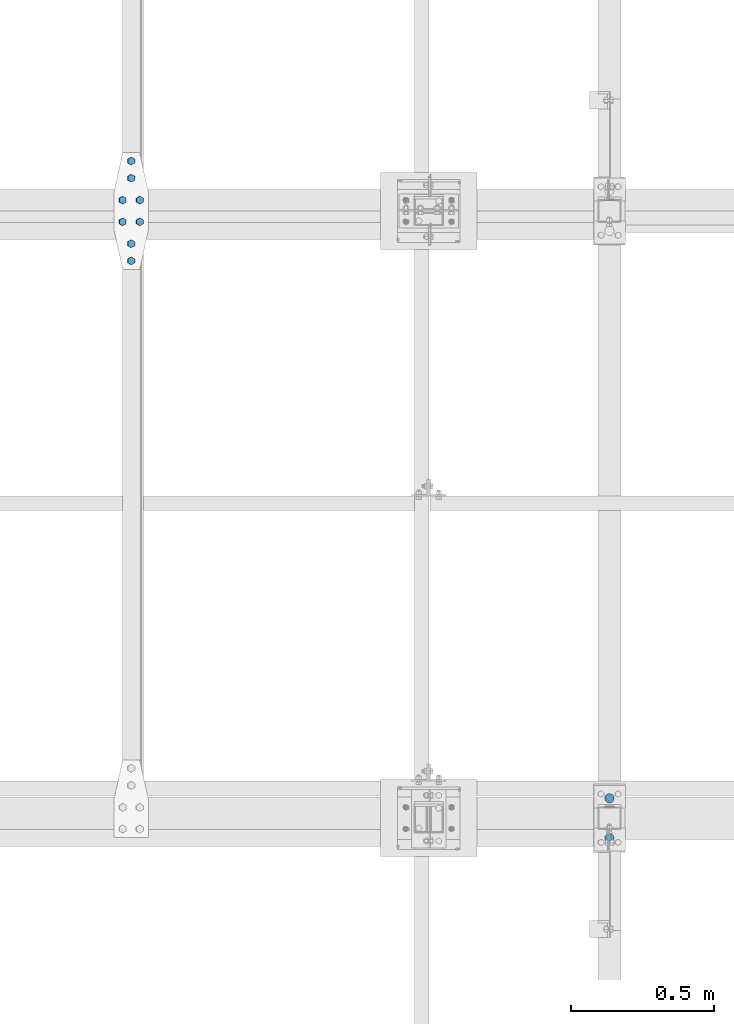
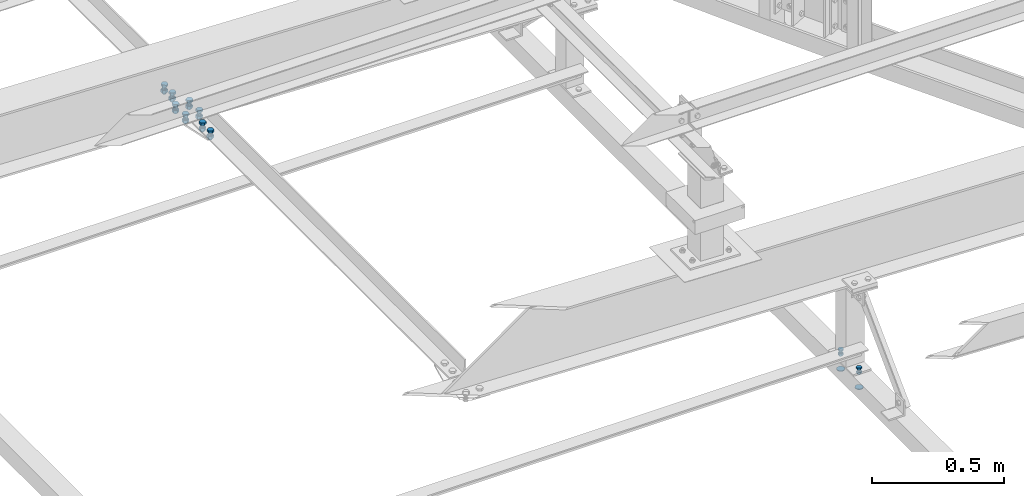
# One storey, part 9 of 3134: 5 mechanical fasteners, 3 elements without a shape of their own.
"""IFC2X3 building model written with IfcOpenShell, lengths in millimetres."""

from ifc_helpers import new_model, si_unit, frame, origin_with_axes, place, context, subcontext, project, spatial, faceted_brep, source, transform, mapped, material, type_object, element, aggregate, save


model = new_model("IFC2X3")

# Units and contexts
model_context = context("Model", 3, precision=1e-05, world=origin_with_axes())
body_context = subcontext(model_context, "Body", "Model", "MODEL_VIEW")
ifc_project = project(units=[si_unit("LENGTHUNIT", "METRE", prefix="MILLI"), si_unit("AREAUNIT", "SQUARE_METRE"), si_unit("VOLUMEUNIT", "CUBIC_METRE"), si_unit("MASSUNIT", "GRAM", prefix="KILO"), si_unit("TIMEUNIT", "SECOND"), si_unit("PLANEANGLEUNIT", "RADIAN"), si_unit("SOLIDANGLEUNIT", "STERADIAN"), si_unit("THERMODYNAMICTEMPERATUREUNIT", "DEGREE_CELSIUS"), si_unit("LUMINOUSINTENSITYUNIT", "LUMEN")], contexts=[model_context])

# Site, building, storey
site_placement = place(None, origin_with_axes())
site = spatial("IfcSite", under=ifc_project, at=site_placement, CompositionType="ELEMENT")
building_placement = place(site_placement, origin_with_axes())
building = spatial("IfcBuilding", under=site, at=building_placement, Name="Undefined", CompositionType="ELEMENT")
storey_placement = place(building_placement, origin_with_axes())
storey = spatial("IfcBuildingStorey", under=building, at=storey_placement, Name="Undefined", CompositionType="ELEMENT", Elevation=0.0)

# Assembly, mechanical fasteners
assembly_1_placement = place(storey_placement, origin_with_axes())
assembly_1 = element("IfcElementAssembly", 1, at=assembly_1_placement, inside=storey, AssemblyPlace="NOTDEFINED", PredefinedType="RIGID_FRAME")
ifc_material = material(Name="8.8")
mechanical_fastener_type = type_object("IfcMechanicalFastenerType", Name="Bolt assembly")
shared_shape_1 = source(origin_with_axes(), body_context, "Body", "Brep", [
    faceted_brep([(16.5, -3.0, 0.0), (14.289419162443, -3.0, 8.25000000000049), (8.24999999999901, -3.0, 14.2894191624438), (-1.70995436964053e-12, -3.0, 16.5), (-8.25000000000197, -3.0, 14.2894191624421), (-14.2894191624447, -3.0, 8.24999999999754), (-16.5, -3.0, -3.41990873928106e-12), (-14.2894191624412, -3.0, -8.25000000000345), (-8.24999999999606, -3.0, -14.2894191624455), (5.11154442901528e-12, -3.0, -16.5), (8.25000000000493, -3.0, -14.2894191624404), (14.2894191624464, -3.0, -8.24999999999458), (14.2894191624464, 0.1, -8.24999999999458), (8.25000000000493, 0.1, -14.2894191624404), (5.11154442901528e-12, 0.1, -16.5), (-8.24999999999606, 0.1, -14.2894191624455), (-14.2894191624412, 0.1, -8.25000000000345), (-16.5, 0.1, -3.41990873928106e-12), (-14.2894191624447, 0.1, 8.24999999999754), (-8.25000000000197, 0.1, 14.2894191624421), (-1.70995436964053e-12, 0.1, 16.5), (8.24999999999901, 0.1, 14.2894191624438), (14.289419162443, 0.1, 8.25000000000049), (16.5, 0.1, 0.0)], [[[0, 1, 2, 3, 4, 5, 6, 7, 8, 9, 10, 11]], [[12, 13, 14, 15, 16, 17, 18, 19, 20, 21, 22, 23]], [[0, 23, 22, 1]], [[1, 22, 21, 2]], [[2, 21, 20, 3]], [[3, 20, 19, 4]], [[4, 19, 18, 5]], [[5, 18, 17, 6]], [[6, 17, 16, 7]], [[7, 16, 15, 8]], [[8, 15, 14, 9]], [[9, 14, 13, 10]], [[10, 13, 12, 11]], [[11, 12, 23, 0]]]),
])
mechanical_fastener_1_placement = place(assembly_1_placement, frame((6325.0, 11000.0, 3040.0), z_axis=(1.0, 0.0, 0.0), x_axis=(0.0, -1.0, 0.0)))
mechanical_fastener_1 = element("IfcMechanicalFastener", 2, at=mechanical_fastener_1_placement, type_object=mechanical_fastener_type, material=ifc_material, Name="Bolt assembly", NominalDiameter=30.0, NominalLength=3.0, context=body_context, shape_type="MappedRepresentation", body=[
    mapped(shared_shape_1, transform((0.0, 0.0, 0.0))),
    mapped(shared_shape_1, transform((140.0, 0.0, 0.0))),
])
shared_shape_2 = source(origin_with_axes(), body_context, "Body", "Brep", [
    faceted_brep([(10.9696551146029, -16.0, 0.0), (5.48482755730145, -16.0, 9.5), (-5.48482755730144, -16.0, 9.5), (-10.9696551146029, -16.0, 1.34339530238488e-15), (-5.48482755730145, -16.0, -9.5), (5.48482755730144, -16.0, -9.50000000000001), (5.48482755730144, -8.0, -9.50000000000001), (-5.48482755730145, -8.0, -9.5), (-10.9696551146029, -8.0, 1.34339530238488e-15), (-5.48482755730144, -8.0, 9.5), (5.48482755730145, -8.0, 9.5), (10.9696551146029, -8.0, 0.0), (6.0, -8.0, 0.0), (5.19615242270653, -8.0, 3.00000000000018), (2.99999999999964, -8.0, 5.19615242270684), (-6.21801588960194e-13, -8.0, 6.0), (-3.00000000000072, -8.0, 5.19615242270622), (-5.19615242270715, -8.0, 2.9999999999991), (-6.0, -8.0, -1.24360317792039e-12), (-5.19615242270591, -8.0, -3.00000000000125), (-2.99999999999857, -8.0, -5.19615242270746), (1.85874342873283e-12, -8.0, -6.0), (3.00000000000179, -8.0, -5.1961524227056), (5.19615242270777, -8.0, -2.99999999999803), (5.19615242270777, 17.0, -2.99999999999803), (3.00000000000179, 17.0, -5.1961524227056), (1.85874342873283e-12, 17.0, -6.0), (-2.99999999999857, 17.0, -5.19615242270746), (-5.19615242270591, 17.0, -3.00000000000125), (-6.0, 17.0, -1.24360317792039e-12), (-5.19615242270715, 17.0, 2.9999999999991), (-3.00000000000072, 17.0, 5.19615242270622), (-6.21801588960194e-13, 17.0, 6.0), (2.99999999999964, 17.0, 5.19615242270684), (5.19615242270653, 17.0, 3.00000000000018), (6.0, 17.0, 0.0), (10.9696551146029, 3.00000000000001, 0.0), (5.48482755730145, 3.00000000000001, 9.5), (-5.48482755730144, 3.00000000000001, 9.5), (-10.9696551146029, 3.00000000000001, 1.34339530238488e-15), (-5.48482755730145, 3.00000000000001, -9.5), (5.48482755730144, 3.00000000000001, -9.50000000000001), (5.48482755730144, 13.0, -9.50000000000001), (-5.48482755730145, 13.0, -9.5), (-10.9696551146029, 13.0, 1.34339530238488e-15), (-5.48482755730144, 13.0, 9.5), (5.48482755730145, 13.0, 9.5), (10.9696551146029, 13.0, 0.0)], [[[0, 1, 2, 3, 4, 5]], [[6, 7, 8, 9, 10, 11]], [[0, 11, 10, 1]], [[1, 10, 9, 2]], [[2, 9, 8, 3]], [[3, 8, 7, 4]], [[4, 7, 6, 5]], [[5, 6, 11, 0]], [[12, 13, 14, 15, 16, 17, 18, 19, 20, 21, 22, 23]], [[24, 25, 26, 27, 28, 29, 30, 31, 32, 33, 34, 35]], [[12, 35, 34, 13]], [[13, 34, 33, 14]], [[14, 33, 32, 15]], [[15, 32, 31, 16]], [[16, 31, 30, 17]], [[17, 30, 29, 18]], [[18, 29, 28, 19]], [[19, 28, 27, 20]], [[20, 27, 26, 21]], [[21, 26, 25, 22]], [[22, 25, 24, 23]], [[23, 24, 35, 12]], [[36, 37, 38, 39, 40, 41]], [[42, 43, 44, 45, 46, 47]], [[36, 47, 46, 37]], [[37, 46, 45, 38]], [[38, 45, 44, 39]], [[39, 44, 43, 40]], [[40, 43, 42, 41]], [[41, 42, 47, 36]]]),
    faceted_brep([(7.0, -7.9, 0.0), (6.06217782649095, -7.9, 3.50000000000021), (3.49999999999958, -7.9, 6.06217782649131), (-7.25435187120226e-13, -7.9, 7.0), (-3.50000000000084, -7.9, 6.06217782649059), (-6.06217782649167, -7.9, 3.49999999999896), (-7.0, -7.9, -1.45087037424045e-12), (-6.06217782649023, -7.9, -3.50000000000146), (-3.49999999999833, -7.9, -6.06217782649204), (2.1685340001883e-12, -7.9, -7.0), (3.50000000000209, -7.9, -6.06217782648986), (6.0621778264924, -7.9, -3.4999999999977), (6.0621778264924, 0.0999999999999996, -3.4999999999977), (3.50000000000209, 0.0999999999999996, -6.06217782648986), (2.1685340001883e-12, 0.0999999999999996, -7.0), (-3.49999999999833, 0.0999999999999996, -6.06217782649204), (-6.06217782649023, 0.0999999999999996, -3.50000000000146), (-7.0, 0.0999999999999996, -1.45087037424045e-12), (-6.06217782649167, 0.0999999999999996, 3.49999999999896), (-3.50000000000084, 0.0999999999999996, 6.06217782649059), (-7.25435187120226e-13, 0.0999999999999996, 7.0), (3.49999999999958, 0.0999999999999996, 6.06217782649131), (6.06217782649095, 0.0999999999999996, 3.50000000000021), (7.0, 0.0999999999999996, 0.0), (7.0, -0.1, 0.0), (6.06217782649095, -0.1, 3.50000000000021), (3.49999999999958, -0.1, 6.06217782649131), (-7.25435187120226e-13, -0.1, 7.0), (-3.50000000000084, -0.1, 6.06217782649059), (-6.06217782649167, -0.1, 3.49999999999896), (-7.0, -0.1, -1.45087037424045e-12), (-6.06217782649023, -0.1, -3.50000000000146), (-3.49999999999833, -0.1, -6.06217782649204), (2.1685340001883e-12, -0.1, -7.0), (3.50000000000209, -0.1, -6.06217782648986), (6.0621778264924, -0.1, -3.4999999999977), (6.0621778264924, 3.0, -3.4999999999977), (3.50000000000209, 3.0, -6.06217782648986), (2.1685340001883e-12, 3.0, -7.0), (-3.49999999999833, 3.0, -6.06217782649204), (-6.06217782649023, 3.0, -3.50000000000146), (-7.0, 3.0, -1.45087037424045e-12), (-6.06217782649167, 3.0, 3.49999999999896), (-3.50000000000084, 3.0, 6.06217782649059), (-7.25435187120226e-13, 3.0, 7.0), (3.49999999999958, 3.0, 6.06217782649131), (6.06217782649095, 3.0, 3.50000000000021), (7.0, 3.0, 0.0)], [[[0, 1, 2, 3, 4, 5, 6, 7, 8, 9, 10, 11]], [[12, 13, 14, 15, 16, 17, 18, 19, 20, 21, 22, 23]], [[0, 23, 22, 1]], [[1, 22, 21, 2]], [[2, 21, 20, 3]], [[3, 20, 19, 4]], [[4, 19, 18, 5]], [[5, 18, 17, 6]], [[6, 17, 16, 7]], [[7, 16, 15, 8]], [[8, 15, 14, 9]], [[9, 14, 13, 10]], [[10, 13, 12, 11]], [[11, 12, 23, 0]], [[24, 25, 26, 27, 28, 29, 30, 31, 32, 33, 34, 35]], [[36, 37, 38, 39, 40, 41, 42, 43, 44, 45, 46, 47]], [[24, 47, 46, 25]], [[25, 46, 45, 26]], [[26, 45, 44, 27]], [[27, 44, 43, 28]], [[28, 43, 42, 29]], [[29, 42, 41, 30]], [[30, 41, 40, 31]], [[31, 40, 39, 32]], [[32, 39, 38, 33]], [[33, 38, 37, 34]], [[34, 37, 36, 35]], [[35, 36, 47, 24]]]),
])
mechanical_fastener_2_placement = place(assembly_1_placement, frame((6325.0, 11000.0, 3120.0), z_axis=(1.0, 0.0, 0.0), x_axis=(0.0, -1.0, 0.0)))
mechanical_fastener_2 = element("IfcMechanicalFastener", 3, at=mechanical_fastener_2_placement, type_object=mechanical_fastener_type, material=ifc_material, Name="Bolt assembly", NominalDiameter=12.0, NominalLength=25.0, context=body_context, shape_type="MappedRepresentation", body=[
    mapped(shared_shape_2, transform((0.0, 0.0, 0.0))),
    mapped(shared_shape_2, transform((140.0, 0.0, 0.0))),
])
aggregate(assembly_1, [mechanical_fastener_2, mechanical_fastener_1])

# Assembly, mechanical fastener
assembly_2_placement = place(storey_placement, origin_with_axes())
assembly_2 = element("IfcElementAssembly", 4, at=assembly_2_placement, inside=storey, Name="PL8", AssemblyPlace="NOTDEFINED", PredefinedType="RIGID_FRAME")
shared_shape_3 = source(origin_with_axes(), body_context, "Body", "Brep", [
    faceted_brep([(13.856406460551, -21.0000017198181, 0.0), (6.92820323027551, -21.0000017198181, 12.0), (-6.92820323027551, -21.0000017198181, 12.0), (-13.856406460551, -21.0000017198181, 1.69692038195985e-15), (-6.92820323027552, -21.0000017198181, -12.0), (6.9282032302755, -21.0000017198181, -12.0), (6.9282032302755, -11.0000017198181, -12.0), (-6.92820323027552, -11.0000017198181, -12.0), (-13.856406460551, -11.0000017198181, 1.69692038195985e-15), (-6.92820323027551, -11.0000017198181, 12.0), (6.92820323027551, -11.0000017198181, 12.0), (13.856406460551, -11.0000017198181, 0.0), (8.0, -11.0000017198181, 0.0), (6.92820323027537, -11.0000017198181, 4.00000000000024), (3.99999999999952, -11.0000017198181, 6.92820323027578), (-8.29068785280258e-13, -11.0000017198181, 8.0), (-4.00000000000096, -11.0000017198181, 6.92820323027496), (-6.9282032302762, -11.0000017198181, 3.99999999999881), (-8.0, -11.0000017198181, -1.65813757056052e-12), (-6.92820323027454, -11.0000017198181, -4.00000000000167), (-3.99999999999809, -11.0000017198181, -6.92820323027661), (2.47832457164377e-12, -11.0000017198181, -8.0), (4.00000000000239, -11.0000017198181, -6.92820323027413), (6.92820323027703, -11.0000017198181, -3.99999999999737), (6.92820323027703, 23.9999999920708, -3.99999999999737), (4.00000000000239, 23.9999999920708, -6.92820323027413), (2.47832457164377e-12, 23.9999999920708, -8.0), (-3.99999999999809, 23.9999999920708, -6.92820323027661), (-6.92820323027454, 23.9999999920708, -4.00000000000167), (-8.0, 23.9999999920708, -1.65813757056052e-12), (-6.9282032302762, 23.9999999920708, 3.99999999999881), (-4.00000000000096, 23.9999999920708, 6.92820323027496), (-8.29068785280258e-13, 23.9999999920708, 8.0), (3.99999999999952, 23.9999999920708, 6.92820323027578), (6.92820323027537, 23.9999999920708, 4.00000000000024), (8.0, 23.9999999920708, 0.0), (13.856406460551, 3.99999999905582, 0.0), (6.92820323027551, 3.99999999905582, 12.0), (-6.92820323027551, 3.99999999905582, 12.0), (-13.856406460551, 3.99999999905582, 1.69692038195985e-15), (-6.92820323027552, 3.99999999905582, -12.0), (6.9282032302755, 3.99999999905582, -12.0), (6.9282032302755, 16.9999999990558, -12.0), (-6.92820323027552, 16.9999999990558, -12.0), (-13.856406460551, 16.9999999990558, 1.69692038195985e-15), (-6.92820323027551, 16.9999999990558, 12.0), (6.92820323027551, 16.9999999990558, 12.0), (13.856406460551, 16.9999999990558, 0.0)], [[[0, 1, 2, 3, 4, 5]], [[6, 7, 8, 9, 10, 11]], [[0, 11, 10, 1]], [[1, 10, 9, 2]], [[2, 9, 8, 3]], [[3, 8, 7, 4]], [[4, 7, 6, 5]], [[5, 6, 11, 0]], [[12, 13, 14, 15, 16, 17, 18, 19, 20, 21, 22, 23]], [[24, 25, 26, 27, 28, 29, 30, 31, 32, 33, 34, 35]], [[12, 35, 34, 13]], [[13, 34, 33, 14]], [[14, 33, 32, 15]], [[15, 32, 31, 16]], [[16, 31, 30, 17]], [[17, 30, 29, 18]], [[18, 29, 28, 19]], [[19, 28, 27, 20]], [[20, 27, 26, 21]], [[21, 26, 25, 22]], [[22, 25, 24, 23]], [[23, 24, 35, 12]], [[36, 37, 38, 39, 40, 41]], [[42, 43, 44, 45, 46, 47]], [[36, 47, 46, 37]], [[37, 46, 45, 38]], [[38, 45, 44, 39]], [[39, 44, 43, 40]], [[40, 43, 42, 41]], [[41, 42, 47, 36]]]),
    faceted_brep([(9.0, -10.9000017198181, 0.0), (7.79422863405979, -10.9000017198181, 4.50000000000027), (4.49999999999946, -10.9000017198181, 7.79422863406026), (-9.3270238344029e-13, -10.9000017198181, 9.0), (-4.50000000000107, -10.9000017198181, 7.79422863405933), (-7.79422863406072, -10.9000017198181, 4.49999999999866), (-9.0, -10.9000017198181, -1.86540476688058e-12), (-7.79422863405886, -10.9000017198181, -4.50000000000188), (-4.49999999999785, -10.9000017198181, -7.79422863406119), (2.78811514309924e-12, -10.9000017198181, -9.0), (4.50000000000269, -10.9000017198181, -7.7942286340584), (7.79422863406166, -10.9000017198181, -4.49999999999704), (7.79422863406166, -3.9, -4.49999999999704), (4.50000000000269, -3.9, -7.7942286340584), (2.78811514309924e-12, -3.9, -9.0), (-4.49999999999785, -3.9, -7.79422863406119), (-7.79422863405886, -3.9, -4.50000000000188), (-9.0, -3.9, -1.86540476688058e-12), (-7.79422863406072, -3.9, 4.49999999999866), (-4.50000000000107, -3.9, 7.79422863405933), (-9.3270238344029e-13, -3.9, 9.0), (4.49999999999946, -3.9, 7.79422863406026), (7.79422863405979, -3.9, 4.50000000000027), (9.0, -3.9, 0.0), (9.0, -4.10000000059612, 0.0), (7.79422863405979, -4.10000000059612, 4.50000000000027), (4.49999999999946, -4.10000000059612, 7.79422863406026), (-9.3270238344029e-13, -4.10000000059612, 9.0), (-4.50000000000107, -4.10000000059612, 7.79422863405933), (-7.79422863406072, -4.10000000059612, 4.49999999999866), (-9.0, -4.10000000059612, -1.86540476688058e-12), (-7.79422863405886, -4.10000000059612, -4.50000000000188), (-4.49999999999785, -4.10000000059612, -7.79422863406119), (2.78811514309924e-12, -4.10000000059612, -9.0), (4.50000000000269, -4.10000000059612, -7.7942286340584), (7.79422863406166, -4.10000000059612, -4.49999999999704), (7.79422863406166, 4.00000375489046, -4.49999999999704), (4.50000000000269, 4.00000375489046, -7.7942286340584), (2.78811514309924e-12, 4.00000375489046, -9.0), (-4.49999999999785, 4.00000375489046, -7.79422863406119), (-7.79422863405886, 4.00000375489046, -4.50000000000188), (-9.0, 4.00000375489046, -1.86540476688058e-12), (-7.79422863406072, 4.00000375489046, 4.49999999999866), (-4.50000000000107, 4.00000375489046, 7.79422863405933), (-9.3270238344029e-13, 4.00000375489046, 9.0), (4.49999999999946, 4.00000375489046, 7.79422863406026), (7.79422863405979, 4.00000375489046, 4.50000000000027), (9.0, 4.00000375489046, 0.0)], [[[0, 1, 2, 3, 4, 5, 6, 7, 8, 9, 10, 11]], [[12, 13, 14, 15, 16, 17, 18, 19, 20, 21, 22, 23]], [[0, 23, 22, 1]], [[1, 22, 21, 2]], [[2, 21, 20, 3]], [[3, 20, 19, 4]], [[4, 19, 18, 5]], [[5, 18, 17, 6]], [[6, 17, 16, 7]], [[7, 16, 15, 8]], [[8, 15, 14, 9]], [[9, 14, 13, 10]], [[10, 13, 12, 11]], [[11, 12, 23, 0]], [[24, 25, 26, 27, 28, 29, 30, 31, 32, 33, 34, 35]], [[36, 37, 38, 39, 40, 41, 42, 43, 44, 45, 46, 47]], [[24, 47, 46, 25]], [[25, 46, 45, 26]], [[26, 45, 44, 27]], [[27, 44, 43, 28]], [[28, 43, 42, 29]], [[29, 42, 41, 30]], [[30, 41, 40, 31]], [[31, 40, 39, 32]], [[32, 39, 38, 33]], [[33, 38, 37, 34]], [[34, 37, 36, 35]], [[35, 36, 47, 24]]]),
])
mechanical_fastener_3_placement = place(assembly_2_placement, frame((4647.50483525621, 13175.0, 3576.15051900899), z_axis=(-0.999388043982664, 0.0, 0.0349791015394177), x_axis=(0.0, 1.0, 0.0)))
mechanical_fastener_3 = element("IfcMechanicalFastener", 5, at=mechanical_fastener_3_placement, type_object=mechanical_fastener_type, material=ifc_material, Name="Bolt assembly", NominalDiameter=16.0, NominalLength=35.0, context=body_context, shape_type="MappedRepresentation", body=[
    mapped(shared_shape_3, transform((0.0, 0.0, 0.0))),
    mapped(shared_shape_3, transform((59.9999999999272, 0.0, 5.40239852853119e-10))),
])

assembly_3_placement = place(storey_placement, origin_with_axes())
assembly_3 = element("IfcElementAssembly", 6, at=assembly_3_placement, inside=storey, AssemblyPlace="NOTDEFINED", PredefinedType="RIGID_FRAME")
shared_shape_4 = source(origin_with_axes(), body_context, "Body", "Brep", [
    faceted_brep([(13.856406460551, -21.0000017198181, 0.0), (6.92820323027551, -21.0000017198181, 12.0), (-6.92820323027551, -21.0000017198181, 12.0), (-13.856406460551, -21.0000017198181, 1.69692038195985e-15), (-6.92820323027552, -21.0000017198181, -12.0), (6.9282032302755, -21.0000017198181, -12.0), (6.9282032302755, -11.0000017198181, -12.0), (-6.92820323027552, -11.0000017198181, -12.0), (-13.856406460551, -11.0000017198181, 1.69692038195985e-15), (-6.92820323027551, -11.0000017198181, 12.0), (6.92820323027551, -11.0000017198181, 12.0), (13.856406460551, -11.0000017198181, 0.0), (8.0, -11.0000017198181, 0.0), (6.92820323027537, -11.0000017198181, 4.00000000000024), (3.99999999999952, -11.0000017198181, 6.92820323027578), (-8.29068785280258e-13, -11.0000017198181, 8.0), (-4.00000000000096, -11.0000017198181, 6.92820323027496), (-6.9282032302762, -11.0000017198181, 3.99999999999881), (-8.0, -11.0000017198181, -1.65813757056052e-12), (-6.92820323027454, -11.0000017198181, -4.00000000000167), (-3.99999999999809, -11.0000017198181, -6.92820323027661), (2.47832457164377e-12, -11.0000017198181, -8.0), (4.00000000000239, -11.0000017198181, -6.92820323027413), (6.92820323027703, -11.0000017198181, -3.99999999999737), (6.92820323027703, 23.9999999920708, -3.99999999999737), (4.00000000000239, 23.9999999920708, -6.92820323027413), (2.47832457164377e-12, 23.9999999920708, -8.0), (-3.99999999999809, 23.9999999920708, -6.92820323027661), (-6.92820323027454, 23.9999999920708, -4.00000000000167), (-8.0, 23.9999999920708, -1.65813757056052e-12), (-6.9282032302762, 23.9999999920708, 3.99999999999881), (-4.00000000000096, 23.9999999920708, 6.92820323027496), (-8.29068785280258e-13, 23.9999999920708, 8.0), (3.99999999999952, 23.9999999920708, 6.92820323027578), (6.92820323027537, 23.9999999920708, 4.00000000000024), (8.0, 23.9999999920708, 0.0), (13.856406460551, 3.99999999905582, 0.0), (6.92820323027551, 3.99999999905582, 12.0), (-6.92820323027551, 3.99999999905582, 12.0), (-13.856406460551, 3.99999999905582, 1.69692038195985e-15), (-6.92820323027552, 3.99999999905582, -12.0), (6.9282032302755, 3.99999999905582, -12.0), (6.9282032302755, 16.9999999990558, -12.0), (-6.92820323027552, 16.9999999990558, -12.0), (-13.856406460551, 16.9999999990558, 1.69692038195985e-15), (-6.92820323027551, 16.9999999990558, 12.0), (6.92820323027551, 16.9999999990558, 12.0), (13.856406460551, 16.9999999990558, 0.0)], [[[0, 1, 2, 3, 4, 5]], [[6, 7, 8, 9, 10, 11]], [[0, 11, 10, 1]], [[1, 10, 9, 2]], [[2, 9, 8, 3]], [[3, 8, 7, 4]], [[4, 7, 6, 5]], [[5, 6, 11, 0]], [[12, 13, 14, 15, 16, 17, 18, 19, 20, 21, 22, 23]], [[24, 25, 26, 27, 28, 29, 30, 31, 32, 33, 34, 35]], [[12, 35, 34, 13]], [[13, 34, 33, 14]], [[14, 33, 32, 15]], [[15, 32, 31, 16]], [[16, 31, 30, 17]], [[17, 30, 29, 18]], [[18, 29, 28, 19]], [[19, 28, 27, 20]], [[20, 27, 26, 21]], [[21, 26, 25, 22]], [[22, 25, 24, 23]], [[23, 24, 35, 12]], [[36, 37, 38, 39, 40, 41]], [[42, 43, 44, 45, 46, 47]], [[36, 47, 46, 37]], [[37, 46, 45, 38]], [[38, 45, 44, 39]], [[39, 44, 43, 40]], [[40, 43, 42, 41]], [[41, 42, 47, 36]]]),
    faceted_brep([(9.0, -4.10000000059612, 0.0), (7.79422863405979, -4.10000000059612, 4.50000000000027), (4.49999999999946, -4.10000000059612, 7.79422863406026), (-9.3270238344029e-13, -4.10000000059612, 9.0), (-4.50000000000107, -4.10000000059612, 7.79422863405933), (-7.79422863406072, -4.10000000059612, 4.49999999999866), (-9.0, -4.10000000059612, -1.86540476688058e-12), (-7.79422863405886, -4.10000000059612, -4.50000000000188), (-4.49999999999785, -4.10000000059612, -7.79422863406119), (2.78811514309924e-12, -4.10000000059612, -9.0), (4.50000000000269, -4.10000000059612, -7.7942286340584), (7.79422863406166, -4.10000000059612, -4.49999999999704), (7.79422863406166, 4.00000375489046, -4.49999999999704), (4.50000000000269, 4.00000375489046, -7.7942286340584), (2.78811514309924e-12, 4.00000375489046, -9.0), (-4.49999999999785, 4.00000375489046, -7.79422863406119), (-7.79422863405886, 4.00000375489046, -4.50000000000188), (-9.0, 4.00000375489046, -1.86540476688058e-12), (-7.79422863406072, 4.00000375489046, 4.49999999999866), (-4.50000000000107, 4.00000375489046, 7.79422863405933), (-9.3270238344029e-13, 4.00000375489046, 9.0), (4.49999999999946, 4.00000375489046, 7.79422863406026), (7.79422863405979, 4.00000375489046, 4.50000000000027), (9.0, 4.00000375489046, 0.0), (9.0, -10.9000017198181, 0.0), (7.79422863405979, -10.9000017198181, 4.50000000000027), (4.49999999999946, -10.9000017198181, 7.79422863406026), (-9.3270238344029e-13, -10.9000017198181, 9.0), (-4.50000000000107, -10.9000017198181, 7.79422863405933), (-7.79422863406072, -10.9000017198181, 4.49999999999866), (-9.0, -10.9000017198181, -1.86540476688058e-12), (-7.79422863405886, -10.9000017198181, -4.50000000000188), (-4.49999999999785, -10.9000017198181, -7.79422863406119), (2.78811514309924e-12, -10.9000017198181, -9.0), (4.50000000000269, -10.9000017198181, -7.7942286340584), (7.79422863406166, -10.9000017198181, -4.49999999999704), (7.79422863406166, -3.9, -4.49999999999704), (4.50000000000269, -3.9, -7.7942286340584), (2.78811514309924e-12, -3.9, -9.0), (-4.49999999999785, -3.9, -7.79422863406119), (-7.79422863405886, -3.9, -4.50000000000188), (-9.0, -3.9, -1.86540476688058e-12), (-7.79422863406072, -3.9, 4.49999999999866), (-4.50000000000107, -3.9, 7.79422863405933), (-9.3270238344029e-13, -3.9, 9.0), (4.49999999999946, -3.9, 7.79422863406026), (7.79422863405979, -3.9, 4.50000000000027), (9.0, -3.9, 0.0)], [[[0, 1, 2, 3, 4, 5, 6, 7, 8, 9, 10, 11]], [[12, 13, 14, 15, 16, 17, 18, 19, 20, 21, 22, 23]], [[0, 23, 22, 1]], [[1, 22, 21, 2]], [[2, 21, 20, 3]], [[3, 20, 19, 4]], [[4, 19, 18, 5]], [[5, 18, 17, 6]], [[6, 17, 16, 7]], [[7, 16, 15, 8]], [[8, 15, 14, 9]], [[9, 14, 13, 10]], [[10, 13, 12, 11]], [[11, 12, 23, 0]], [[24, 25, 26, 27, 28, 29, 30, 31, 32, 33, 34, 35]], [[36, 37, 38, 39, 40, 41, 42, 43, 44, 45, 46, 47]], [[24, 47, 46, 25]], [[25, 46, 45, 26]], [[26, 45, 44, 27]], [[27, 44, 43, 28]], [[28, 43, 42, 29]], [[29, 42, 41, 30]], [[30, 41, 40, 31]], [[31, 40, 39, 32]], [[32, 39, 38, 33]], [[33, 38, 37, 34]], [[34, 37, 36, 35]], [[35, 36, 47, 24]]]),
])
mechanical_fastener_4_placement = place(assembly_3_placement, frame((4647.50483526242, 12885.0, 3576.15051900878), z_axis=(-0.999388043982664, 0.0, 0.0349791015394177), x_axis=(0.0, 1.0, 0.0)))
mechanical_fastener_4 = element("IfcMechanicalFastener", 7, at=mechanical_fastener_4_placement, type_object=mechanical_fastener_type, material=ifc_material, Name="Bolt assembly", NominalDiameter=16.0, NominalLength=35.0, context=body_context, shape_type="MappedRepresentation", body=[
    mapped(shared_shape_4, transform((0.0, 0.0, 0.0))),
    mapped(shared_shape_4, transform((59.9999999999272, 0.0, 5.40239852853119e-10))),
])
aggregate(assembly_3, [mechanical_fastener_4])

# Mechanical fastener
shared_shape_5 = source(origin_with_axes(), body_context, "Body", "Brep", [
    faceted_brep([(13.856406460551, -23.2000817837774, 0.0), (6.92820323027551, -23.2000817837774, 12.0), (-6.92820323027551, -23.2000817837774, 12.0), (-13.856406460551, -23.2000817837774, 1.69692038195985e-15), (-6.92820323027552, -23.2000817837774, -12.0), (6.9282032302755, -23.2000817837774, -12.0), (6.9282032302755, -13.2000817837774, -12.0), (-6.92820323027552, -13.2000817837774, -12.0), (-13.856406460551, -13.2000817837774, 1.69692038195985e-15), (-6.92820323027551, -13.2000817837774, 12.0), (6.92820323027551, -13.2000817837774, 12.0), (13.856406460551, -13.2000817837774, 0.0), (8.0, -13.2000817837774, 0.0), (6.92820323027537, -13.2000817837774, 4.00000000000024), (3.99999999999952, -13.2000817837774, 6.92820323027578), (-8.29068785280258e-13, -13.2000817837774, 8.0), (-4.00000000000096, -13.2000817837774, 6.92820323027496), (-6.9282032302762, -13.2000817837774, 3.99999999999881), (-8.0, -13.2000817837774, -1.65813757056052e-12), (-6.92820323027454, -13.2000817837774, -4.00000000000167), (-3.99999999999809, -13.2000817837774, -6.92820323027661), (2.47832457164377e-12, -13.2000817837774, -8.0), (4.00000000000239, -13.2000817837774, -6.92820323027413), (6.92820323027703, -13.2000817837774, -3.99999999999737), (6.92820323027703, 21.7999182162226, -3.99999999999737), (4.00000000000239, 21.7999182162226, -6.92820323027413), (2.47832457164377e-12, 21.7999182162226, -8.0), (-3.99999999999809, 21.7999182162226, -6.92820323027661), (-6.92820323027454, 21.7999182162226, -4.00000000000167), (-8.0, 21.7999182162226, -1.65813757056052e-12), (-6.9282032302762, 21.7999182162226, 3.99999999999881), (-4.00000000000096, 21.7999182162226, 6.92820323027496), (-8.29068785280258e-13, 21.7999182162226, 8.0), (3.99999999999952, 21.7999182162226, 6.92820323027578), (6.92820323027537, 21.7999182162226, 4.00000000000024), (8.0, 21.7999182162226, 0.0), (13.856406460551, 3.99999999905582, 0.0), (6.92820323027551, 3.99999999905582, 12.0), (-6.92820323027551, 3.99999999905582, 12.0), (-13.856406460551, 3.99999999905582, 1.69692038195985e-15), (-6.92820323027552, 3.99999999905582, -12.0), (6.9282032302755, 3.99999999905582, -12.0), (6.9282032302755, 16.9999999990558, -12.0), (-6.92820323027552, 16.9999999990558, -12.0), (-13.856406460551, 16.9999999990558, 1.69692038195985e-15), (-6.92820323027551, 16.9999999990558, 12.0), (6.92820323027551, 16.9999999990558, 12.0), (13.856406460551, 16.9999999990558, 0.0)], [[[0, 1, 2, 3, 4, 5]], [[6, 7, 8, 9, 10, 11]], [[0, 11, 10, 1]], [[1, 10, 9, 2]], [[2, 9, 8, 3]], [[3, 8, 7, 4]], [[4, 7, 6, 5]], [[5, 6, 11, 0]], [[12, 13, 14, 15, 16, 17, 18, 19, 20, 21, 22, 23]], [[24, 25, 26, 27, 28, 29, 30, 31, 32, 33, 34, 35]], [[12, 35, 34, 13]], [[13, 34, 33, 14]], [[14, 33, 32, 15]], [[15, 32, 31, 16]], [[16, 31, 30, 17]], [[17, 30, 29, 18]], [[18, 29, 28, 19]], [[19, 28, 27, 20]], [[20, 27, 26, 21]], [[21, 26, 25, 22]], [[22, 25, 24, 23]], [[23, 24, 35, 12]], [[36, 37, 38, 39, 40, 41]], [[42, 43, 44, 45, 46, 47]], [[36, 47, 46, 37]], [[37, 46, 45, 38]], [[38, 45, 44, 39]], [[39, 44, 43, 40]], [[40, 43, 42, 41]], [[41, 42, 47, 36]]]),
    faceted_brep([(9.0, -13.1000817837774, 0.0), (7.79422863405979, -13.1000817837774, 4.50000000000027), (4.49999999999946, -13.1000817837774, 7.79422863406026), (-9.3270238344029e-13, -13.1000817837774, 9.0), (-4.50000000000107, -13.1000817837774, 7.79422863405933), (-7.79422863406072, -13.1000817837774, 4.49999999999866), (-9.0, -13.1000817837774, -1.86540476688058e-12), (-7.79422863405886, -13.1000817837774, -4.50000000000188), (-4.49999999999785, -13.1000817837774, -7.79422863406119), (2.78811514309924e-12, -13.1000817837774, -9.0), (4.50000000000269, -13.1000817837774, -7.7942286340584), (7.79422863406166, -13.1000817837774, -4.49999999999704), (7.79422863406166, -3.90008197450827, -4.49999999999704), (4.50000000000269, -3.90008197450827, -7.7942286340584), (2.78811514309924e-12, -3.90008197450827, -9.0), (-4.49999999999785, -3.90008197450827, -7.79422863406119), (-7.79422863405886, -3.90008197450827, -4.50000000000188), (-9.0, -3.90008197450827, -1.86540476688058e-12), (-7.79422863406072, -3.90008197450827, 4.49999999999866), (-4.50000000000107, -3.90008197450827, 7.79422863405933), (-9.3270238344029e-13, -3.90008197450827, 9.0), (4.49999999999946, -3.90008197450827, 7.79422863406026), (7.79422863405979, -3.90008197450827, 4.50000000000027), (9.0, -3.90008197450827, 0.0), (9.0, -4.10000000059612, 0.0), (7.79422863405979, -4.10000000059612, 4.50000000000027), (4.49999999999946, -4.10000000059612, 7.79422863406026), (-9.3270238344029e-13, -4.10000000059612, 9.0), (-4.50000000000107, -4.10000000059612, 7.79422863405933), (-7.79422863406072, -4.10000000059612, 4.49999999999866), (-9.0, -4.10000000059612, -1.86540476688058e-12), (-7.79422863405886, -4.10000000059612, -4.50000000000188), (-4.49999999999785, -4.10000000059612, -7.79422863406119), (2.78811514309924e-12, -4.10000000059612, -9.0), (4.50000000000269, -4.10000000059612, -7.7942286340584), (7.79422863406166, -4.10000000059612, -4.49999999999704), (7.79422863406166, 4.00000375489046, -4.49999999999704), (4.50000000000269, 4.00000375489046, -7.7942286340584), (2.78811514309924e-12, 4.00000375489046, -9.0), (-4.49999999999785, 4.00000375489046, -7.79422863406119), (-7.79422863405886, 4.00000375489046, -4.50000000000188), (-9.0, 4.00000375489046, -1.86540476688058e-12), (-7.79422863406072, 4.00000375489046, 4.49999999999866), (-4.50000000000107, 4.00000375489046, 7.79422863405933), (-9.3270238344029e-13, 4.00000375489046, 9.0), (4.49999999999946, 4.00000375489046, 7.79422863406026), (7.79422863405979, 4.00000375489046, 4.50000000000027), (9.0, 4.00000375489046, 0.0)], [[[0, 1, 2, 3, 4, 5, 6, 7, 8, 9, 10, 11]], [[12, 13, 14, 15, 16, 17, 18, 19, 20, 21, 22, 23]], [[0, 23, 22, 1]], [[1, 22, 21, 2]], [[2, 21, 20, 3]], [[3, 20, 19, 4]], [[4, 19, 18, 5]], [[5, 18, 17, 6]], [[6, 17, 16, 7]], [[7, 16, 15, 8]], [[8, 15, 14, 9]], [[9, 14, 13, 10]], [[10, 13, 12, 11]], [[11, 12, 23, 0]], [[24, 25, 26, 27, 28, 29, 30, 31, 32, 33, 34, 35]], [[36, 37, 38, 39, 40, 41, 42, 43, 44, 45, 46, 47]], [[24, 47, 46, 25]], [[25, 46, 45, 26]], [[26, 45, 44, 27]], [[27, 44, 43, 28]], [[28, 43, 42, 29]], [[29, 42, 41, 30]], [[30, 41, 40, 31]], [[31, 40, 39, 32]], [[32, 39, 38, 33]], [[33, 38, 37, 34]], [[34, 37, 36, 35]], [[35, 36, 47, 24]]]),
])
mechanical_fastener_5_placement = place(assembly_2_placement, frame((4647.50483519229, 13022.0, 3576.15051900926), z_axis=(-0.999388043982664, 0.0, 0.0349791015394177), x_axis=(0.0, 1.0, 0.0)))
mechanical_fastener_5 = element("IfcMechanicalFastener", 8, at=mechanical_fastener_5_placement, type_object=mechanical_fastener_type, material=ifc_material, Name="Bolt assembly", NominalDiameter=16.0, NominalLength=35.0, context=body_context, shape_type="MappedRepresentation", body=[
    mapped(shared_shape_5, transform((0.0, 4.54747350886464e-13, -30.0000000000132))),
    mapped(shared_shape_5, transform((76.0, -2.00088834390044e-10, -29.9999999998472))),
    mapped(shared_shape_5, transform((0.0, 4.54747350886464e-13, 30.0000000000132))),
    mapped(shared_shape_5, transform((76.0, 1.98269844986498e-10, 29.9999999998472))),
])

aggregate(assembly_2, [mechanical_fastener_3, mechanical_fastener_5])

save(model, "model.ifc")
